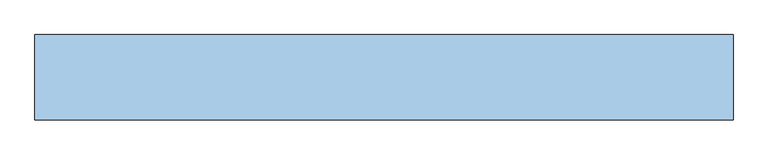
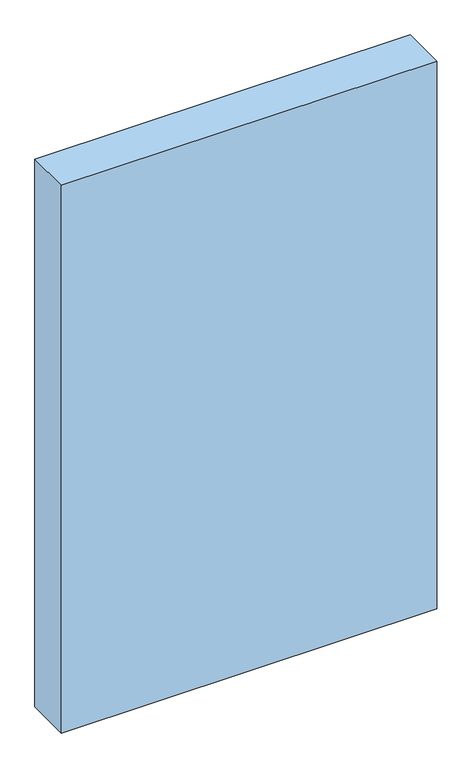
"""IFC4 building model written with IfcOpenShell, lengths in millimetres: window geometry, Dr_Проем-Четверти_об модель : ОК."""

from ifc_helpers import new_model, si_unit, frame, origin, place, context, project, spatial, polyline, outline, extrude, source, transform, mapped, element, save


def window_f550ed60(model_context):
    return source(origin(), model_context, "Body", "SweptSolid", [
        extrude(outline(polyline([(955.0, -100.0), (-685.0, -100.0), (-685.0, 100.0), (955.0, 100.0), (955.0, -100.0)])), frame((0.0, 0.0, -70.0), z_axis=(0.0, 0.0, 1.0), x_axis=(1.0, 0.0, 0.0)), (0.0, 0.0, 1.0), 2530.0),
    ])


if __name__ == "__main__":
    model = new_model("IFC4")
    model_context = context("Model", 3, world=origin())
    ifc_project = project(units=[si_unit("LENGTHUNIT", "METRE", prefix="MILLI")], contexts=[model_context])
    site = spatial("IfcSite", under=ifc_project)
    building = spatial("IfcBuilding", under=site)
    placement = place(None, origin())
    window_shape = window_f550ed60(model_context)
    element("IfcWindow", 1, ObjectType="Dr_Проем-Четверти_об модель : ОК", at=placement, inside=building, context=model_context, shape_type="MappedRepresentation", body=[
        mapped(window_shape, transform((0.0, 0.0, 0.0), x_axis=(1.0, 0.0, 0.0), y_axis=(0.0, 1.0, 0.0), z_axis=(0.0, 0.0, 1.0))),
    ])
    save(model, "model.ifc")
